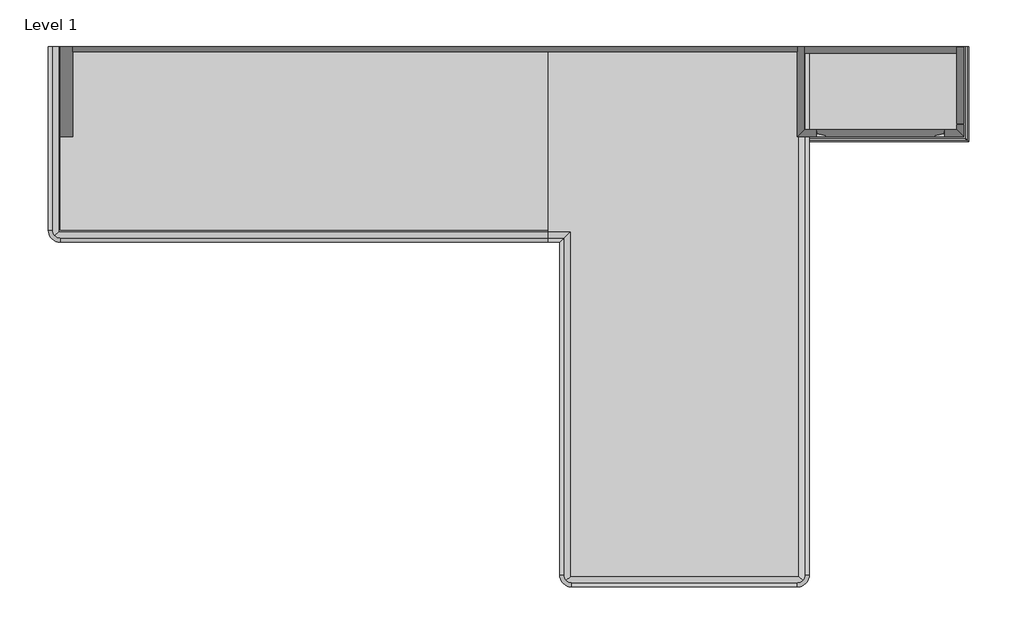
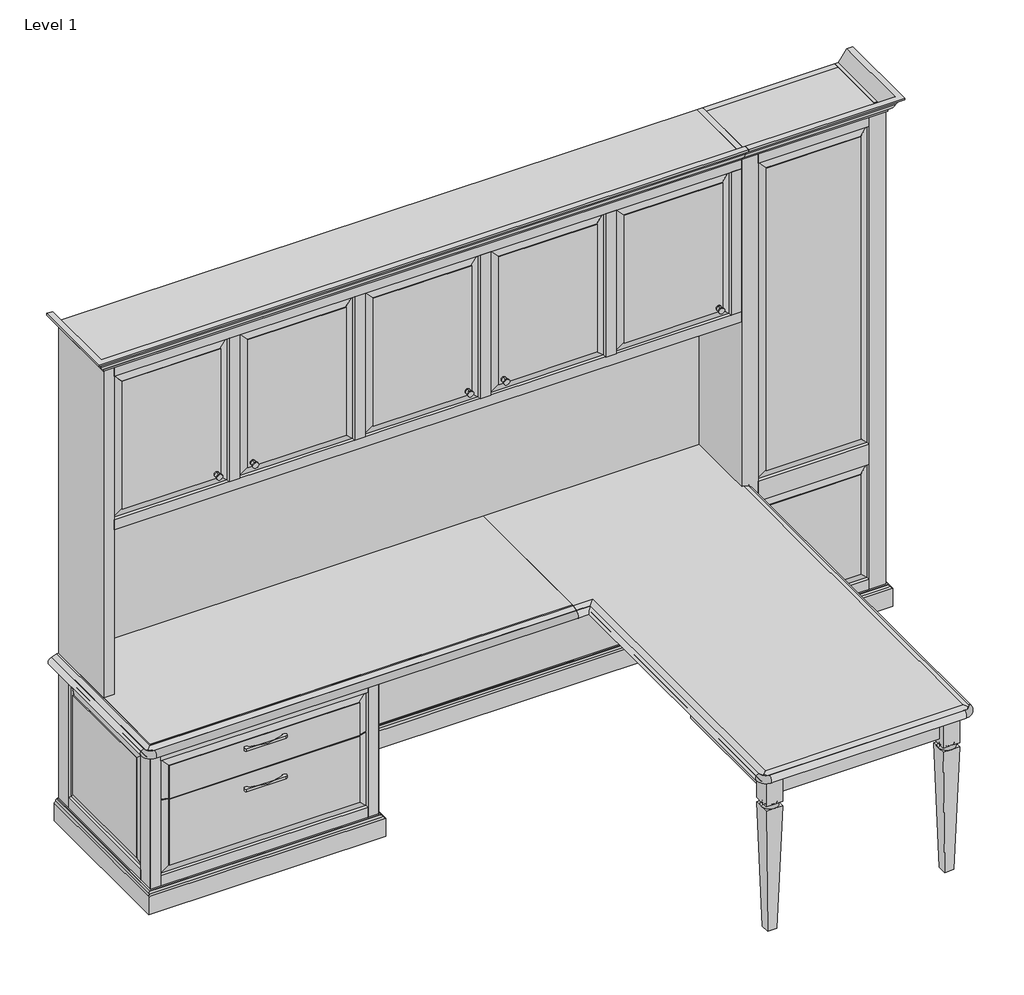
# One storey: 8 proxies.
"""IFC4 building model written with IfcOpenShell, lengths in millimetres."""

from ifc_helpers import new_model, si_unit, origin, place, context, project, spatial, transform, mapped, element, save
from components import generic_models_5fe2147b, generic_models_944e4012, generic_models_85007257, generic_models_a6d3b8ae, generic_models_ce6fbba6, generic_models_9f5c36b0, generic_models_2689ce13

model = new_model("IFC4")

# Units and contexts
model_context = context("Model", 3, world=origin())
ifc_project = project(units=[si_unit("LENGTHUNIT", "METRE", prefix="MILLI")], contexts=[model_context])

# Site, building, storey
site = spatial("IfcSite", under=ifc_project)
building = spatial("IfcBuilding", under=site)
storey = spatial("IfcBuildingStorey", under=building, Name="Level 1", Elevation=0.0)

# Proxies
placement = place(None, origin())
generic_models_shape = generic_models_5fe2147b(model_context)
element("IfcBuildingElementProxy", 1, Name="ART DECCO^GLAM-HAFELE 110_34_286", ObjectType="ART DECCO^GLAM-HAFELE 110_34_286", at=placement, inside=storey, context=model_context, shape_type="MappedRepresentation", body=[
    mapped(generic_models_shape, transform((-1068.498326, -3647.7198676, 409.3119085), x_axis=(1.0, 0.0, 0.0), y_axis=(0.0, 0.0, -1.0), z_axis=(0.0, 1.0, 0.0))),
])
element("IfcBuildingElementProxy", 2, Name="ART DECCO^GLAM-HAFELE 110_34_286", ObjectType="ART DECCO^GLAM-HAFELE 110_34_286", at=placement, inside=storey, context=model_context, shape_type="MappedRepresentation", body=[
    mapped(generic_models_shape, transform((-1068.498326, -3647.7198676, 590.2869085), x_axis=(1.0, 0.0, 0.0), y_axis=(0.0, 0.0, -1.0), z_axis=(0.0, 1.0, 0.0))),
])
generic_models_2_shape = generic_models_944e4012(model_context)
element("IfcBuildingElementProxy", 3, Name="CCN^BRIGHTON_L4 HIGH RISE-5 DOOR SOLID ASSEMBLY", ObjectType="CCN^BRIGHTON_L4 HIGH RISE-5 DOOR SOLID ASSEMBLY", at=placement, inside=storey, context=model_context, shape_type="MappedRepresentation", body=[
    mapped(generic_models_2_shape, transform((-1461.0881854, -2974.6198676, 739.8619085), x_axis=(1.0, 0.0, 0.0), y_axis=(0.0, 0.0, 1.0), z_axis=(0.0, -1.0, 0.0))),
])
generic_models_3_shape = generic_models_85007257(model_context)
element("IfcBuildingElementProxy", 4, Name="CCN^BRIGHTON_L4-36 LATERA FILE-LEFT PED PARTS SOLID", ObjectType="CCN^BRIGHTON_L4-36 LATERA FILE-LEFT PED PARTS SOLID", at=placement, inside=storey, context=model_context, shape_type="MappedRepresentation", body=[
    mapped(generic_models_3_shape, transform((1028.101674, -3647.7198676, 701.7619085), x_axis=(1.0, 0.0, 0.0), y_axis=(0.0, 0.0, 1.0), z_axis=(0.0, -1.0, 0.0))),
])
generic_models_4_shape = generic_models_a6d3b8ae(model_context)
element("IfcBuildingElementProxy", 5, Name="CCN^BRIGHTON_L4-LT RETURN TOP-PARTS SOLID", ObjectType="CCN^BRIGHTON_L4-LT RETURN TOP-PARTS SOLID", at=placement, inside=storey, context=model_context, shape_type="MappedRepresentation", body=[
    mapped(generic_models_4_shape, transform((1847.2618146, -3647.7198676, 701.7619085), x_axis=(1.0, 0.0, 0.0), y_axis=(0.0, 0.0, 1.0), z_axis=(0.0, -1.0, 0.0))),
])
generic_models_5_shape = generic_models_ce6fbba6(model_context)
element("IfcBuildingElementProxy", 6, Name="CCN^BRIGHTON_L4- RIGHT END WARDORBE-END DOOR PARTS SOLID", ObjectType="CCN^BRIGHTON_L4- RIGHT END WARDORBE-END DOOR PARTS SOLID", at=placement, inside=storey, context=model_context, shape_type="MappedRepresentation", body=[
    mapped(generic_models_5_shape, transform((1263.0618146, -2974.6198676, -3.0880915), x_axis=(1.0, 0.0, 0.0), y_axis=(0.0, 0.0, 1.0), z_axis=(0.0, -1.0, 0.0))),
])
generic_models_6_shape = generic_models_9f5c36b0(model_context)
element("IfcBuildingElementProxy", 7, Name="CCN^BRIGHTON_L4-RETURN KNEE WALL-PARTS SOLID", ObjectType="CCN^BRIGHTON_L4-RETURN KNEE WALL-PARTS SOLID", at=placement, inside=storey, context=model_context, shape_type="MappedRepresentation", body=[
    mapped(generic_models_6_shape, transform((-3753.4584665, -3152.4198676, -3.0880915), x_axis=(1.0, 0.0, 0.0), y_axis=(0.0, 0.0, 1.0), z_axis=(0.0, -1.0, 0.0))),
])
generic_models_7_shape = generic_models_2689ce13(model_context)
element("IfcBuildingElementProxy", 8, Name="CCN^BRIGHTON_L4 30x78 TABLE DESK-PARTS SOLID", ObjectType="CCN^BRIGHTON_L4 30x78 TABLE DESK-PARTS SOLID", at=placement, inside=storey, context=model_context, shape_type="MappedRepresentation", body=[
    mapped(generic_models_7_shape, transform((437.5618146, -2892.0698676, -3.0880915), x_axis=(0.0, -1.0, 0.0), y_axis=(0.0, 0.0, 1.0), z_axis=(-1.0, 0.0, 0.0))),
])

save(model, "model.ifc")
